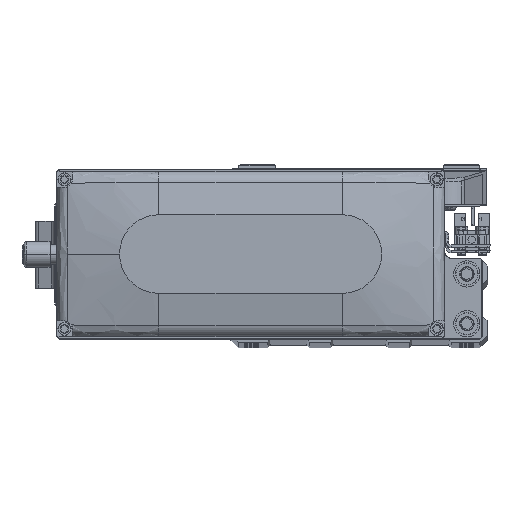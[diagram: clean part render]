
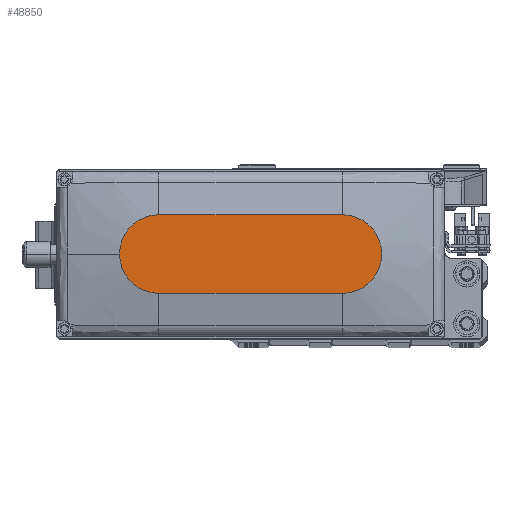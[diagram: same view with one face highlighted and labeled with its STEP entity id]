
A CAD part, top view. The second image highlights one B-rep face of the part: STEP entity #48850.
In plain terms, the highlighted planar face has unit normal (0, 0, 1).
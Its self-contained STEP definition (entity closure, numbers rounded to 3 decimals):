
#1463 = ORIENTED_EDGE ( 'NONE', *, *, #19120, .T. ) ;
#1678 = DIRECTION ( 'NONE',  ( 1., 0., 0. ) ) ;
#2214 = CARTESIAN_POINT ( 'NONE',  ( 35., 0., 35. ) ) ;
#2613 = CARTESIAN_POINT ( 'NONE',  ( 35., 0., 35. ) ) ;
#3102 = AXIS2_PLACEMENT_3D ( 'NONE', #2613, #17839, #33089 ) ;
#4422 = ORIENTED_EDGE ( 'NONE', *, *, #8996, .T. ) ;
#5153 = ORIENTED_EDGE ( 'NONE', *, *, #24109, .T. ) ;
#5807 = VERTEX_POINT ( 'NONE', #39063 ) ;
#6353 = DIRECTION ( 'NONE',  ( 0., 0., 1. ) ) ;
#8750 = EDGE_CURVE ( 'NONE', #37876, #5807, #33912, .T. ) ;
#8996 = EDGE_CURVE ( 'NONE', #5807, #46493, #32231, .T. ) ;
#9397 = AXIS2_PLACEMENT_3D ( 'NONE', #40601, #6353, #21590 ) ;
#9891 = LINE ( 'NONE', #25117, #25402 ) ;
#10084 = FACE_OUTER_BOUND ( 'NONE', #44655, .T. ) ;
#10663 = AXIS2_PLACEMENT_3D ( 'NONE', #20652, #35924, #1678 ) ;
#13304 = ORIENTED_EDGE ( 'NONE', *, *, #44784, .T. ) ;
#14752 = AXIS2_PLACEMENT_3D ( 'NONE', #2214, #17452, #32702 ) ;
#14903 = DIRECTION ( 'NONE',  ( -1., 0., 0. ) ) ;
#15470 = CARTESIAN_POINT ( 'NONE',  ( -35., -15., 35. ) ) ;
#17452 = DIRECTION ( 'NONE',  ( 0., 0., 1. ) ) ;
#17839 = DIRECTION ( 'NONE',  ( 0., 0., 1. ) ) ;
#19120 = EDGE_CURVE ( 'NONE', #48421, #42005, #24665, .T. ) ;
#20652 = CARTESIAN_POINT ( 'NONE',  ( -35., 0., 35. ) ) ;
#21261 = CARTESIAN_POINT ( 'NONE',  ( 35., 15., 35. ) ) ;
#21590 = DIRECTION ( 'NONE',  ( 1., 0., 0. ) ) ;
#24109 = EDGE_CURVE ( 'NONE', #46493, #48421, #9891, .T. ) ;
#24665 = CIRCLE ( 'NONE', #3102, 15. ) ;
#25117 = CARTESIAN_POINT ( 'NONE',  ( -35., -15., 35. ) ) ;
#25312 = PLANE ( 'NONE',  #9397 ) ;
#25402 = VECTOR ( 'NONE', #40395, 1000. ) ;
#29102 = CARTESIAN_POINT ( 'NONE',  ( 50., 0., 35. ) ) ;
#30073 = ORIENTED_EDGE ( 'NONE', *, *, #8750, .T. ) ;
#32231 = CIRCLE ( 'NONE', #10663, 15. ) ;
#32702 = DIRECTION ( 'NONE',  ( 1., 0., 0. ) ) ;
#33089 = DIRECTION ( 'NONE',  ( 1., 0., 0. ) ) ;
#33912 = LINE ( 'NONE', #49180, #36827 ) ;
#35924 = DIRECTION ( 'NONE',  ( 0., 0., 1. ) ) ;
#36184 = CARTESIAN_POINT ( 'NONE',  ( 35., -15., 35. ) ) ;
#36355 = CIRCLE ( 'NONE', #14752, 15. ) ;
#36827 = VECTOR ( 'NONE', #14903, 1000. ) ;
#37876 = VERTEX_POINT ( 'NONE', #21261 ) ;
#39063 = CARTESIAN_POINT ( 'NONE',  ( -35., 15., 35. ) ) ;
#40395 = DIRECTION ( 'NONE',  ( 1., 0., 0. ) ) ;
#40601 = CARTESIAN_POINT ( 'NONE',  ( 0., 0., 35. ) ) ;
#42005 = VERTEX_POINT ( 'NONE', #29102 ) ;
#44655 = EDGE_LOOP ( 'NONE', ( #30073, #4422, #5153, #1463, #13304 ) ) ;
#44784 = EDGE_CURVE ( 'NONE', #42005, #37876, #36355, .T. ) ;
#46493 = VERTEX_POINT ( 'NONE', #15470 ) ;
#48421 = VERTEX_POINT ( 'NONE', #36184 ) ;
#48850 = ADVANCED_FACE ( 'NONE', ( #10084 ), #25312, .T. ) ;
#49180 = CARTESIAN_POINT ( 'NONE',  ( -35., 15., 35. ) ) ;
